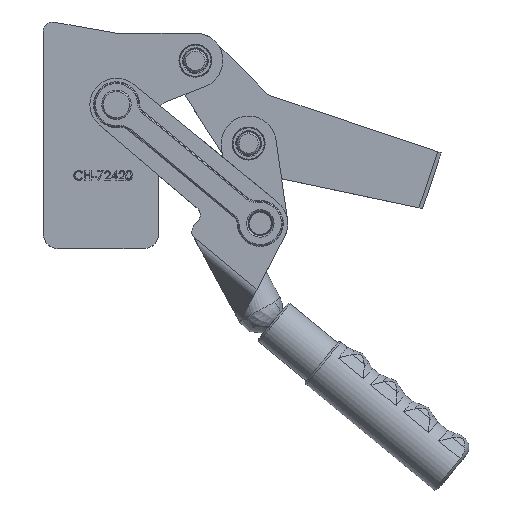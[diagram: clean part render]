
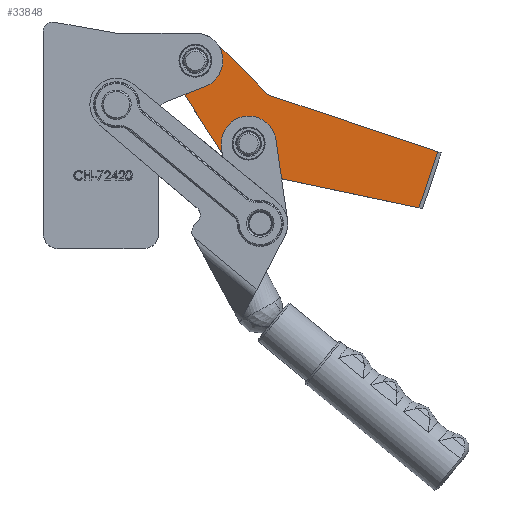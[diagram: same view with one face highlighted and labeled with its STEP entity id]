
A CAD part, top view. The second image highlights one B-rep face of the part: STEP entity #33848.
In plain terms, the highlighted planar face has unit normal (0, 0, 1).
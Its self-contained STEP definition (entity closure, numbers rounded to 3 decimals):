
#566=FACE_BOUND('',#4342,.T.);
#567=FACE_BOUND('',#4343,.T.);
#1035=PLANE('',#36304);
#2385=FACE_OUTER_BOUND('',#4341,.T.);
#4341=EDGE_LOOP('',(#25344,#25345,#25346,#25347,#25348,#25349,#25350,#25351));
#4342=EDGE_LOOP('',(#25352,#25353));
#4343=EDGE_LOOP('',(#25354,#25355));
#6586=LINE('',#54462,#9820);
#6589=LINE('',#54467,#9823);
#6591=LINE('',#54471,#9825);
#6594=LINE('',#54479,#9828);
#6597=LINE('',#54487,#9831);
#9820=VECTOR('',#41812,1000.);
#9823=VECTOR('',#41817,1000.);
#9825=VECTOR('',#41821,1000.);
#9828=VECTOR('',#41830,1000.);
#9831=VECTOR('',#41839,1000.);
#12501=CIRCLE('',#36267,7.);
#12502=CIRCLE('',#36268,7.);
#12507=CIRCLE('',#36275,7.);
#12508=CIRCLE('',#36276,7.);
#12519=CIRCLE('',#36297,5.);
#12520=CIRCLE('',#36300,15.);
#12521=CIRCLE('',#36303,15.);
#14772=VERTEX_POINT('',#54389);
#14773=VERTEX_POINT('',#54391);
#14778=VERTEX_POINT('',#54405);
#14779=VERTEX_POINT('',#54407);
#14798=VERTEX_POINT('',#54459);
#14799=VERTEX_POINT('',#54461);
#14800=VERTEX_POINT('',#54465);
#14801=VERTEX_POINT('',#54469);
#14802=VERTEX_POINT('',#54473);
#14803=VERTEX_POINT('',#54477);
#14804=VERTEX_POINT('',#54481);
#14805=VERTEX_POINT('',#54485);
#18684=EDGE_CURVE('',#14772,#14773,#12501,.T.);
#18685=EDGE_CURVE('',#14773,#14772,#12502,.T.);
#18692=EDGE_CURVE('',#14779,#14778,#12507,.T.);
#18693=EDGE_CURVE('',#14778,#14779,#12508,.T.);
#18719=EDGE_CURVE('',#14799,#14798,#6586,.T.);
#18722=EDGE_CURVE('',#14798,#14800,#6589,.T.);
#18724=EDGE_CURVE('',#14800,#14801,#6591,.T.);
#18725=EDGE_CURVE('',#14801,#14802,#12519,.T.);
#18728=EDGE_CURVE('',#14802,#14803,#6594,.T.);
#18730=EDGE_CURVE('',#14803,#14804,#12520,.T.);
#18732=EDGE_CURVE('',#14804,#14805,#6597,.T.);
#18733=EDGE_CURVE('',#14805,#14799,#12521,.T.);
#25344=ORIENTED_EDGE('',*,*,#18732,.T.);
#25345=ORIENTED_EDGE('',*,*,#18733,.T.);
#25346=ORIENTED_EDGE('',*,*,#18719,.T.);
#25347=ORIENTED_EDGE('',*,*,#18722,.T.);
#25348=ORIENTED_EDGE('',*,*,#18724,.T.);
#25349=ORIENTED_EDGE('',*,*,#18725,.T.);
#25350=ORIENTED_EDGE('',*,*,#18728,.T.);
#25351=ORIENTED_EDGE('',*,*,#18730,.T.);
#25352=ORIENTED_EDGE('',*,*,#18685,.F.);
#25353=ORIENTED_EDGE('',*,*,#18684,.F.);
#25354=ORIENTED_EDGE('',*,*,#18692,.T.);
#25355=ORIENTED_EDGE('',*,*,#18693,.T.);
#33848=ADVANCED_FACE('',(#2385,#566,#567),#1035,.T.);
#36267=AXIS2_PLACEMENT_3D('',#54392,#41741,#41742);
#36268=AXIS2_PLACEMENT_3D('',#54393,#41743,#41744);
#36275=AXIS2_PLACEMENT_3D('',#54408,#41759,#41760);
#36276=AXIS2_PLACEMENT_3D('',#54409,#41761,#41762);
#36297=AXIS2_PLACEMENT_3D('',#54474,#41824,#41825);
#36300=AXIS2_PLACEMENT_3D('',#54483,#41834,#41835);
#36303=AXIS2_PLACEMENT_3D('',#54489,#41842,#41843);
#36304=AXIS2_PLACEMENT_3D('',#54490,#41844,#41845);
#41741=DIRECTION('center_axis',(0.,0.,1.));
#41742=DIRECTION('ref_axis',(0.,-1.,0.));
#41743=DIRECTION('center_axis',(0.,0.,1.));
#41744=DIRECTION('ref_axis',(0.,-1.,0.));
#41759=DIRECTION('center_axis',(0.,0.,-1.));
#41760=DIRECTION('ref_axis',(0.,-1.,0.));
#41761=DIRECTION('center_axis',(0.,0.,-1.));
#41762=DIRECTION('ref_axis',(0.,-1.,0.));
#41812=DIRECTION('',(-0.993,-0.115,0.));
#41817=DIRECTION('',(0.,-1.,0.));
#41821=DIRECTION('',(1.,0.,0.));
#41824=DIRECTION('center_axis',(0.,0.,-1.));
#41825=DIRECTION('ref_axis',(-1.,0.,0.));
#41830=DIRECTION('',(0.893,-0.45,0.));
#41834=DIRECTION('center_axis',(0.,0.,1.));
#41835=DIRECTION('ref_axis',(-1.,0.,0.));
#41839=DIRECTION('',(-0.78,0.626,0.));
#41842=DIRECTION('center_axis',(0.,0.,1.));
#41843=DIRECTION('ref_axis',(-1.,0.,0.));
#41844=DIRECTION('center_axis',(0.,0.,1.));
#41845=DIRECTION('ref_axis',(1.,0.,0.));
#54389=CARTESIAN_POINT('',(-41.85,40.569,8.));
#54391=CARTESIAN_POINT('',(-41.85,26.569,8.));
#54392=CARTESIAN_POINT('Origin',(-41.85,33.569,8.));
#54393=CARTESIAN_POINT('Origin',(-41.85,33.569,8.));
#54405=CARTESIAN_POINT('',(0.,7.,8.));
#54407=CARTESIAN_POINT('',(0.,-7.,8.));
#54408=CARTESIAN_POINT('Origin',(0.,0.,8.));
#54409=CARTESIAN_POINT('Origin',(0.,0.,8.));
#54459=CARTESIAN_POINT('',(-141.,37.231,8.));
#54461=CARTESIAN_POINT('',(-43.569,48.471,8.));
#54462=CARTESIAN_POINT('',(-43.569,48.471,8.));
#54465=CARTESIAN_POINT('',(-141.,5.,8.));
#54467=CARTESIAN_POINT('',(-141.,16.785,8.));
#54469=CARTESIAN_POINT('',(-44.459,5.,8.));
#54471=CARTESIAN_POINT('',(-62.532,5.,8.));
#54473=CARTESIAN_POINT('',(-42.21,4.466,8.));
#54474=CARTESIAN_POINT('Origin',(-44.459,0.,8.));
#54477=CARTESIAN_POINT('',(-6.748,-13.397,8.));
#54479=CARTESIAN_POINT('',(-42.21,4.466,8.));
#54481=CARTESIAN_POINT('',(9.386,11.701,8.));
#54483=CARTESIAN_POINT('Origin',(0.,0.,8.));
#54485=CARTESIAN_POINT('',(-32.464,45.27,8.));
#54487=CARTESIAN_POINT('',(9.386,11.701,8.));
#54489=CARTESIAN_POINT('Origin',(-41.85,33.569,8.));
#54490=CARTESIAN_POINT('Origin',(-141.,-15.381,8.));
